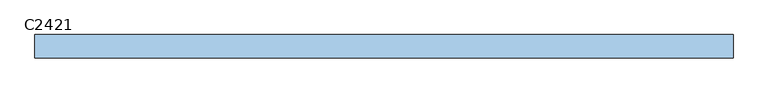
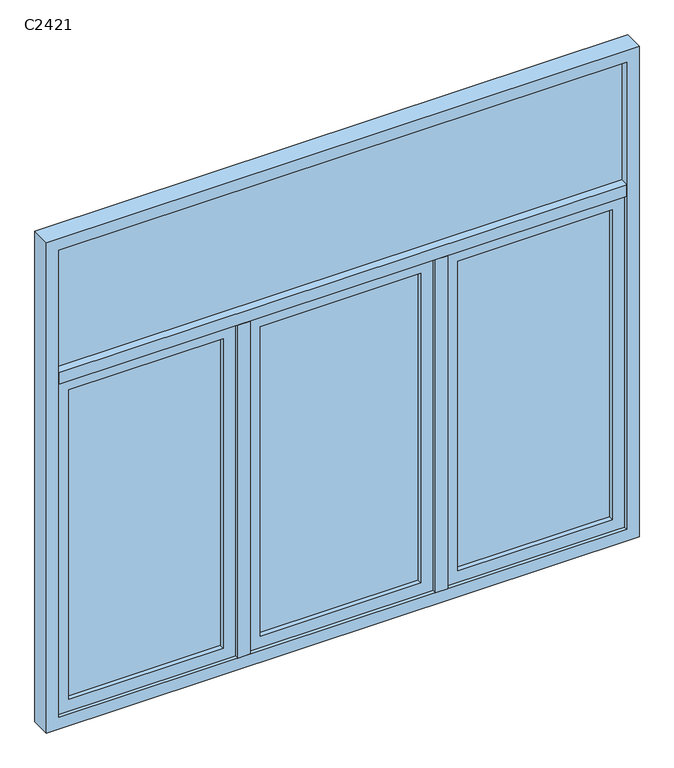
"""IFC4 building model written with IfcOpenShell, lengths in millimetres: window geometry, 组合窗 - 双层三列(三扇平开) - 上部单扇 : C2421."""

from ifc_helpers import new_model, si_unit, frame, origin, place, context, project, spatial, polyline, outline, extrude, source, transform, mapped, element, save


def c2421_0f87a412(model_context):
    return source(origin(), model_context, "Body", "SweptSolid", [
        extrude(outline(polyline([(325.0, -10.0), (-325.0, -10.0), (-325.0, 0.0), (325.0, 0.0), (325.0, -10.0)])), frame((0.0, 0.0, 1100.0), z_axis=(0.0, 0.0, 1.0), x_axis=(1.0, 0.0, 0.0)), (0.0, 0.0, 1.0), 1325.0),
        extrude(outline(polyline([(2475.0, 375.0), (2475.0, -375.0), (1050.0, -375.0), (1050.0, 375.0), (2475.0, 375.0)]), holes=[polyline([(1100.0, 325.0), (1100.0, -325.0), (2425.0, -325.0), (2425.0, 325.0), (1100.0, 325.0)])]), frame((0.0, -30.0, 0.0), z_axis=(0.0, 1.0, 0.0), x_axis=(0.0, 0.0, 1.0)), (0.0, 0.0, 1.0), 50.0),
        extrude(outline(polyline([(1150.0, -10.0), (-1150.0, -10.0), (-1150.0, 0.0), (1150.0, 0.0), (1150.0, -10.0)])), frame((0.0, 0.0, 2525.0), z_axis=(0.0, 0.0, 1.0), x_axis=(1.0, 0.0, 0.0)), (0.0, 0.0, 1.0), 525.0),
        extrude(outline(polyline([(-475.0, -10.0), (-1100.0, -10.0), (-1100.0, 0.0), (-475.0, 0.0), (-475.0, -10.0)])), frame((0.0, 0.0, 1100.0), z_axis=(0.0, 0.0, 1.0), x_axis=(1.0, 0.0, 0.0)), (0.0, 0.0, 1.0), 1325.0),
        extrude(outline(polyline([(2475.0, -425.0), (2475.0, -1150.0), (1050.0, -1150.0), (1050.0, -425.0), (2475.0, -425.0)]), holes=[polyline([(1100.0, -475.0), (1100.0, -1100.0), (2425.0, -1100.0), (2425.0, -475.0), (1100.0, -475.0)])]), frame((0.0, -30.0, 0.0), z_axis=(0.0, 1.0, 0.0), x_axis=(0.0, 0.0, 1.0)), (0.0, 0.0, 1.0), 50.0),
        extrude(outline(polyline([(1100.0, -10.0), (475.0, -10.0), (475.0, 0.0), (1100.0, 0.0), (1100.0, -10.0)])), frame((0.0, 0.0, 1100.0), z_axis=(0.0, 0.0, 1.0), x_axis=(1.0, 0.0, 0.0)), (0.0, 0.0, 1.0), 1325.0),
        extrude(outline(polyline([(2475.0, 1150.0), (2475.0, 425.0), (1050.0, 425.0), (1050.0, 1150.0), (2475.0, 1150.0)]), holes=[polyline([(1100.0, 1100.0), (1100.0, 475.0), (2425.0, 475.0), (2425.0, 1100.0), (1100.0, 1100.0)])]), frame((0.0, -30.0, 0.0), z_axis=(0.0, 1.0, 0.0), x_axis=(0.0, 0.0, 1.0)), (0.0, 0.0, 1.0), 50.0),
        extrude(outline(polyline([(375.0, 35.0), (425.0, 35.0), (425.0, -45.0), (375.0, -45.0), (375.0, 35.0)])), frame((0.0, 0.0, 1050.0), z_axis=(0.0, 0.0, 1.0), x_axis=(1.0, 0.0, 0.0)), (0.0, 0.0, 1.0), 1425.0),
        extrude(outline(polyline([(-425.0, 35.0), (-375.0, 35.0), (-375.0, -45.0), (-425.0, -45.0), (-425.0, 35.0)])), frame((0.0, 0.0, 1050.0), z_axis=(0.0, 0.0, 1.0), x_axis=(1.0, 0.0, 0.0)), (0.0, 0.0, 1.0), 1425.0),
        extrude(outline(polyline([(-1150.0, 35.0), (1150.0, 35.0), (1150.0, -45.0), (-1150.0, -45.0), (-1150.0, 35.0)])), frame((0.0, 0.0, 2475.0), z_axis=(0.0, 0.0, 1.0), x_axis=(1.0, 0.0, 0.0)), (0.0, 0.0, 1.0), 50.0),
        extrude(outline(polyline([(3100.0, -1200.0), (1000.0, -1200.0), (1000.0, 1200.0), (3100.0, 1200.0), (3100.0, -1200.0)]), holes=[polyline([(3050.0, 1150.0), (1050.0, 1150.0), (1050.0, -1150.0), (3050.0, -1150.0), (3050.0, 1150.0)])]), frame((0.0, -45.0, 0.0), z_axis=(0.0, 1.0, 0.0), x_axis=(0.0, 0.0, 1.0)), (0.0, 0.0, 1.0), 80.0),
    ])


if __name__ == "__main__":
    model = new_model("IFC4")
    model_context = context("Model", 3, world=origin())
    ifc_project = project(units=[si_unit("LENGTHUNIT", "METRE", prefix="MILLI")], contexts=[model_context])
    site = spatial("IfcSite", under=ifc_project)
    building = spatial("IfcBuilding", under=site)
    placement = place(None, origin())
    c2421_shape = c2421_0f87a412(model_context)
    element("IfcWindow", 1, ObjectType="组合窗 - 双层三列(三扇平开) - 上部单扇 : C2421", at=placement, inside=building, context=model_context, shape_type="MappedRepresentation", body=[
        mapped(c2421_shape, transform((0.0, 0.0, 0.0), x_axis=(1.0, 0.0, 0.0), y_axis=(0.0, 1.0, 0.0), z_axis=(0.0, 0.0, 1.0))),
    ])
    save(model, "model.ifc")
